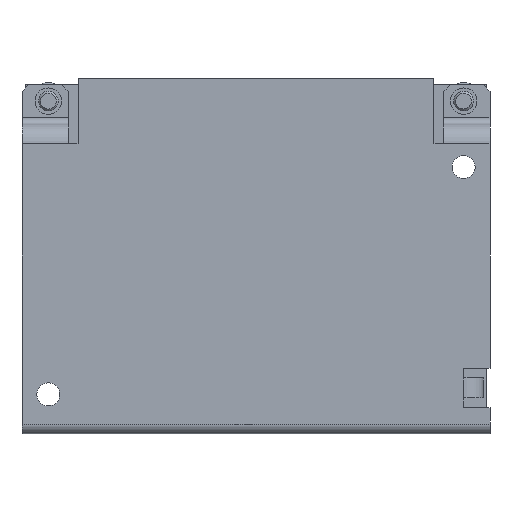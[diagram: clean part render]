
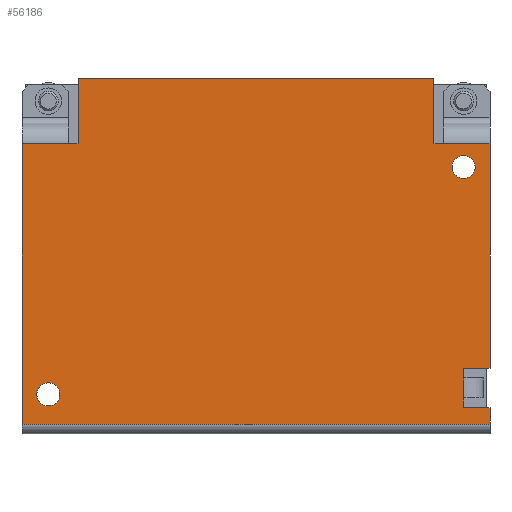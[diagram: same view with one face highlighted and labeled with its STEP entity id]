
A CAD part, front view. The second image highlights one B-rep face of the part: STEP entity #56186.
In plain terms, the highlighted planar face has unit normal (0, -1, 0).
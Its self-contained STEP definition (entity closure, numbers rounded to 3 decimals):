
#54384=CARTESIAN_POINT('',(19.801,5.,61.185));
#54385=VERTEX_POINT('',#54384);
#54392=CARTESIAN_POINT('',(73.801,5.,61.185));
#54393=VERTEX_POINT('',#54392);
#54394=CARTESIAN_POINT('',(73.801,5.,61.185));
#54395=DIRECTION('',(-1.0,0.0,0.0));
#54396=VECTOR('',#54395,54.);
#54397=LINE('',#54394,#54396);
#54398=EDGE_CURVE('',#54393,#54385,#54397,.T.);
#54433=CARTESIAN_POINT('',(80.051,5.,47.685));
#54434=VERTEX_POINT('',#54433);
#54435=CARTESIAN_POINT('',(78.301,5.,47.685));
#54436=DIRECTION('',(0.0,1.0,0.0));
#54437=DIRECTION('',(1.0,0.0,0.0));
#54438=AXIS2_PLACEMENT_3D('',#54435,#54436,#54437);
#54439=CIRCLE('',#54438,1.75);
#54440=EDGE_CURVE('',#54434,#54434,#54439,.T.);
#54461=CARTESIAN_POINT('',(17.051,5.,13.185));
#54462=VERTEX_POINT('',#54461);
#54463=CARTESIAN_POINT('',(15.301,5.,13.185));
#54464=DIRECTION('',(0.0,1.0,0.0));
#54465=DIRECTION('',(1.0,0.0,0.0));
#54466=AXIS2_PLACEMENT_3D('',#54463,#54464,#54465);
#54467=CIRCLE('',#54466,1.75);
#54468=EDGE_CURVE('',#54462,#54462,#54467,.T.);
#54487=CARTESIAN_POINT('',(73.801,5.,51.185));
#54488=VERTEX_POINT('',#54487);
#54489=CARTESIAN_POINT('',(73.801,5.,51.185));
#54490=DIRECTION('',(0.0,0.0,1.0));
#54491=VECTOR('',#54490,10.0);
#54492=LINE('',#54489,#54491);
#54493=EDGE_CURVE('',#54488,#54393,#54492,.T.);
#54518=CARTESIAN_POINT('',(75.301,5.,51.185));
#54519=VERTEX_POINT('',#54518);
#54520=CARTESIAN_POINT('',(75.301,5.,51.185));
#54521=DIRECTION('',(-1.0,0.0,0.0));
#54522=VECTOR('',#54521,1.5);
#54523=LINE('',#54520,#54522);
#54524=EDGE_CURVE('',#54519,#54488,#54523,.T.);
#54548=CARTESIAN_POINT('',(19.801,5.,51.185));
#54549=VERTEX_POINT('',#54548);
#54556=CARTESIAN_POINT('',(19.801,5.,61.185));
#54557=DIRECTION('',(0.0,0.0,-1.0));
#54558=VECTOR('',#54557,10.0);
#54559=LINE('',#54556,#54558);
#54560=EDGE_CURVE('',#54385,#54549,#54559,.T.);
#54579=CARTESIAN_POINT('',(18.301,5.,51.185));
#54580=VERTEX_POINT('',#54579);
#54587=CARTESIAN_POINT('',(19.801,5.,51.185));
#54588=DIRECTION('',(-1.0,0.0,0.0));
#54589=VECTOR('',#54588,1.5);
#54590=LINE('',#54587,#54589);
#54591=EDGE_CURVE('',#54549,#54580,#54590,.T.);
#54612=CARTESIAN_POINT('',(78.301,5.,11.185));
#54613=VERTEX_POINT('',#54612);
#54620=CARTESIAN_POINT('',(82.301,5.,11.185));
#54621=VERTEX_POINT('',#54620);
#54622=CARTESIAN_POINT('',(82.301,5.,11.185));
#54623=DIRECTION('',(-1.0,0.0,0.0));
#54624=VECTOR('',#54623,4.0);
#54625=LINE('',#54622,#54624);
#54626=EDGE_CURVE('',#54621,#54613,#54625,.T.);
#54652=CARTESIAN_POINT('',(82.301,5.,17.185));
#54653=VERTEX_POINT('',#54652);
#54660=CARTESIAN_POINT('',(78.301,5.,17.185));
#54661=VERTEX_POINT('',#54660);
#54662=CARTESIAN_POINT('',(78.301,5.,17.185));
#54663=DIRECTION('',(1.0,0.0,0.0));
#54664=VECTOR('',#54663,4.0);
#54665=LINE('',#54662,#54664);
#54666=EDGE_CURVE('',#54661,#54653,#54665,.T.);
#54692=CARTESIAN_POINT('',(11.301,5.,51.185));
#54693=VERTEX_POINT('',#54692);
#54701=CARTESIAN_POINT('',(11.301,5.,51.185));
#54702=DIRECTION('',(1.0,0.0,0.0));
#54703=VECTOR('',#54702,7.);
#54704=LINE('',#54701,#54703);
#54705=EDGE_CURVE('',#54693,#54580,#54704,.T.);
#54757=CARTESIAN_POINT('',(82.301,5.,8.685));
#54758=VERTEX_POINT('',#54757);
#54766=CARTESIAN_POINT('',(11.301,5.,8.685));
#54767=VERTEX_POINT('',#54766);
#54768=CARTESIAN_POINT('',(82.301,5.,8.685));
#54769=DIRECTION('',(-1.0,0.0,0.0));
#54770=VECTOR('',#54769,71.);
#54771=LINE('',#54768,#54770);
#54772=EDGE_CURVE('',#54758,#54767,#54771,.T.);
#54944=CARTESIAN_POINT('',(82.301,5.,8.685));
#54945=DIRECTION('',(0.0,0.0,1.0));
#54946=VECTOR('',#54945,2.5);
#54947=LINE('',#54944,#54946);
#54948=EDGE_CURVE('',#54758,#54621,#54947,.T.);
#55790=CARTESIAN_POINT('',(78.301,5.,12.685));
#55791=VERTEX_POINT('',#55790);
#55798=CARTESIAN_POINT('',(78.301,5.,11.185));
#55799=DIRECTION('',(0.0,0.0,1.0));
#55800=VECTOR('',#55799,1.5);
#55801=LINE('',#55798,#55800);
#55802=EDGE_CURVE('',#54613,#55791,#55801,.T.);
#55819=CARTESIAN_POINT('',(78.301,5.,15.685));
#55820=VERTEX_POINT('',#55819);
#55834=CARTESIAN_POINT('',(78.301,5.,15.685));
#55835=DIRECTION('',(0.0,0.0,1.0));
#55836=VECTOR('',#55835,1.5);
#55837=LINE('',#55834,#55836);
#55838=EDGE_CURVE('',#55820,#54661,#55837,.T.);
#55922=CARTESIAN_POINT('',(78.301,5.,15.685));
#55923=DIRECTION('',(0.0,0.0,-1.0));
#55924=VECTOR('',#55923,3.);
#55925=LINE('',#55922,#55924);
#55926=EDGE_CURVE('',#55820,#55791,#55925,.T.);
#56003=CARTESIAN_POINT('',(82.301,5.,51.185));
#56004=VERTEX_POINT('',#56003);
#56005=CARTESIAN_POINT('',(75.301,5.,51.185));
#56006=DIRECTION('',(1.0,0.0,0.0));
#56007=VECTOR('',#56006,7.0);
#56008=LINE('',#56005,#56007);
#56009=EDGE_CURVE('',#54519,#56004,#56008,.T.);
#56135=CARTESIAN_POINT('',(11.301,5.,51.185));
#56136=DIRECTION('',(0.0,0.0,-1.0));
#56137=VECTOR('',#56136,42.5);
#56138=LINE('',#56135,#56137);
#56139=EDGE_CURVE('',#54693,#54767,#56138,.T.);
#56152=CARTESIAN_POINT('',(46.801,5.,34.185));
#56153=DIRECTION('',(0.0,-1.0,0.0));
#56154=DIRECTION('',(0.0,0.0,-1.0));
#56155=AXIS2_PLACEMENT_3D('',#56152,#56153,#56154);
#56156=PLANE('',#56155);
#56157=ORIENTED_EDGE('',*,*,#56009,.F.);
#56158=ORIENTED_EDGE('',*,*,#54524,.T.);
#56159=ORIENTED_EDGE('',*,*,#54493,.T.);
#56160=ORIENTED_EDGE('',*,*,#54398,.T.);
#56161=ORIENTED_EDGE('',*,*,#54560,.T.);
#56162=ORIENTED_EDGE('',*,*,#54591,.T.);
#56163=ORIENTED_EDGE('',*,*,#54705,.F.);
#56164=ORIENTED_EDGE('',*,*,#56139,.T.);
#56165=ORIENTED_EDGE('',*,*,#54772,.F.);
#56166=ORIENTED_EDGE('',*,*,#54948,.T.);
#56167=ORIENTED_EDGE('',*,*,#54626,.T.);
#56168=ORIENTED_EDGE('',*,*,#55802,.T.);
#56169=ORIENTED_EDGE('',*,*,#55926,.F.);
#56170=ORIENTED_EDGE('',*,*,#55838,.T.);
#56171=ORIENTED_EDGE('',*,*,#54666,.T.);
#56172=CARTESIAN_POINT('',(82.301,5.,17.185));
#56173=DIRECTION('',(0.0,0.0,1.0));
#56174=VECTOR('',#56173,34.);
#56175=LINE('',#56172,#56174);
#56176=EDGE_CURVE('',#54653,#56004,#56175,.T.);
#56177=ORIENTED_EDGE('',*,*,#56176,.T.);
#56178=EDGE_LOOP('',(#56157,#56158,#56159,#56160,#56161,#56162,#56163,#56164,#56165,#56166,#56167,#56168,#56169,#56170,#56171,#56177));
#56179=FACE_OUTER_BOUND('',#56178,.T.);
#56180=ORIENTED_EDGE('',*,*,#54440,.T.);
#56181=EDGE_LOOP('',(#56180));
#56182=FACE_BOUND('',#56181,.T.);
#56183=ORIENTED_EDGE('',*,*,#54468,.T.);
#56184=EDGE_LOOP('',(#56183));
#56185=FACE_BOUND('',#56184,.T.);
#56186=ADVANCED_FACE('',(#56179,#56182,#56185),#56156,.T.);
